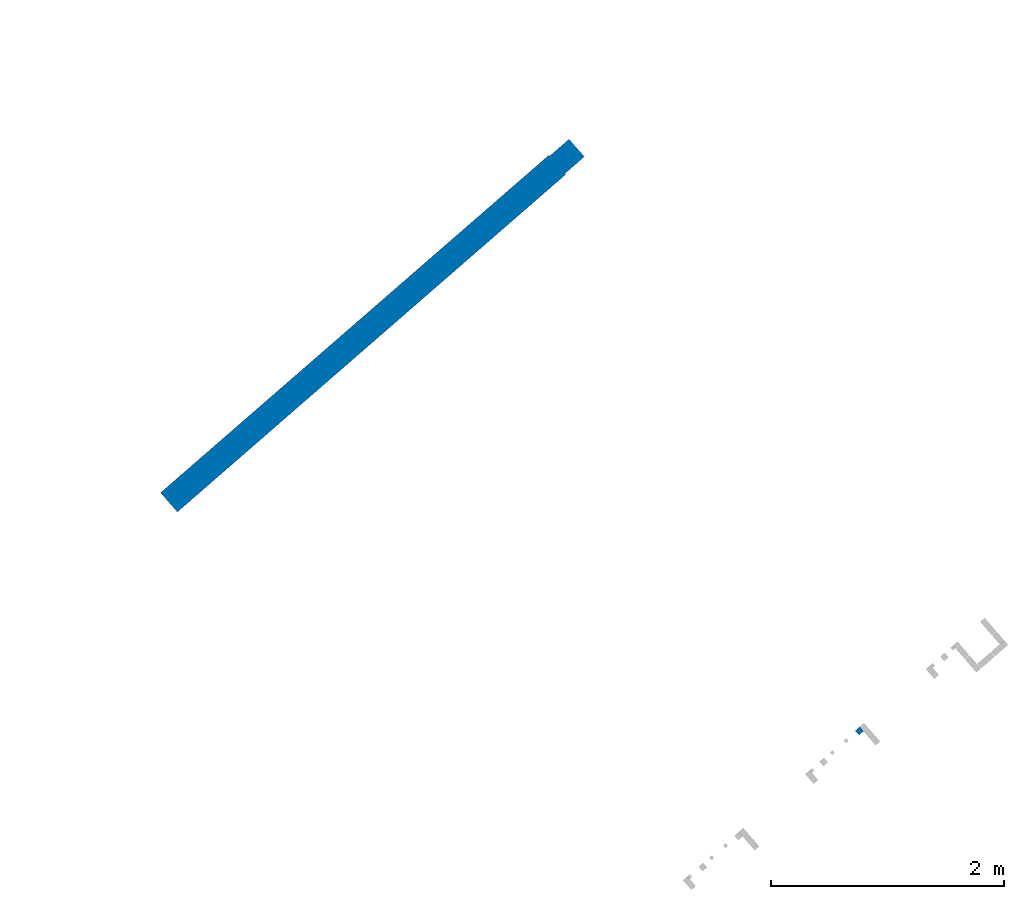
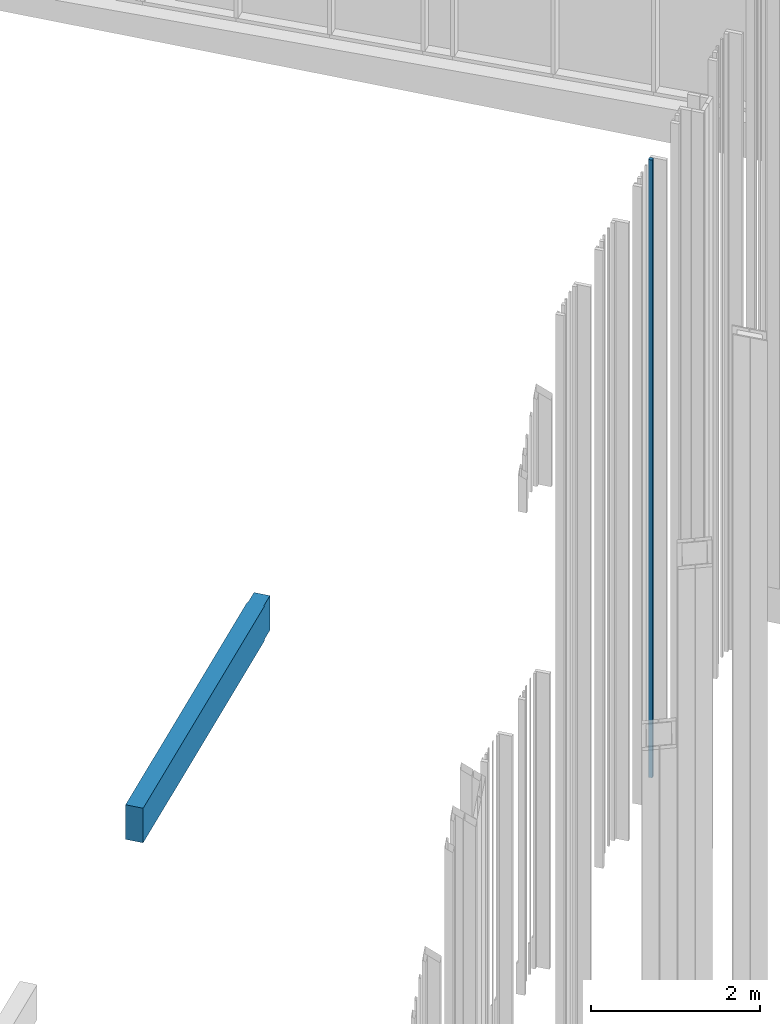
# One storey, part 265 of 390: 2 walls.
"""IFC2X3 building model written with IfcOpenShell, lengths in millimetres."""

from ifc_helpers import new_model, entity, si_unit, converted_unit, derived_unit, money_unit, direction, frame, origin_with_axes, place, context, subcontext, project, spatial, faceted_brep, material, material_list, type_object, element, save


model = new_model("IFC2X3")

# Units and contexts
model_context = context("Model", 3, precision=1e-05, world=origin_with_axes(), true_north=direction((0.0, 1.0)))
body_context = subcontext(model_context, "Body", "Model", "MODEL_VIEW")
ifc_project = project(units=[si_unit("LENGTHUNIT", "METRE", prefix="MILLI"), si_unit("AREAUNIT", "SQUARE_METRE"), si_unit("VOLUMEUNIT", "CUBIC_METRE"), converted_unit("PLANEANGLEUNIT", "DEGREE", entity("IfcPlaneAngleMeasure", 0.0174532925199), si_unit("PLANEANGLEUNIT", "RADIAN"), dimensions=[0, 0, 0, 0, 0, 0, 0]), si_unit("SOLIDANGLEUNIT", "STERADIAN"), money_unit("EUR"), converted_unit("TIMEUNIT", "Year", entity("IfcTimeMeasure", 31556926.0), si_unit("TIMEUNIT", "SECOND"), dimensions=[0, 0, 1, 0, 0, 0, 0]), si_unit("MASSUNIT", "GRAM", prefix="KILO"), si_unit("THERMODYNAMICTEMPERATUREUNIT", "DEGREE_CELSIUS"), si_unit("LUMINOUSINTENSITYUNIT", "LUMEN"), si_unit("ENERGYUNIT", "JOULE", prefix="MEGA"), derived_unit("THERMALCONDUCTANCEUNIT", [(si_unit("POWERUNIT", "WATT"), 1), (si_unit("LENGTHUNIT", "METRE"), -1), (si_unit("THERMODYNAMICTEMPERATUREUNIT", "KELVIN"), -1)]), derived_unit("SPECIFICHEATCAPACITYUNIT", [(si_unit("ENERGYUNIT", "JOULE"), 1), (si_unit("MASSUNIT", "GRAM", prefix="KILO"), -1), (si_unit("THERMODYNAMICTEMPERATUREUNIT", "KELVIN"), -1)]), derived_unit("MASSDENSITYUNIT", [(si_unit("MASSUNIT", "GRAM", prefix="KILO"), 1), (si_unit("VOLUMEUNIT", "CUBIC_METRE"), -1)])], contexts=[model_context])

# Site, building, storey
site_placement = place(None, origin_with_axes())
site = spatial("IfcSite", under=ifc_project, at=site_placement, Name="Site", CompositionType="ELEMENT")
building_placement = place(site_placement, origin_with_axes())
building = spatial("IfcBuilding", under=site, at=building_placement, Name="Building", CompositionType="ELEMENT")
storey_placement = place(building_placement, origin_with_axes())
storey = spatial("IfcBuildingStorey", under=building, at=storey_placement, Name="1 korrus", CompositionType="ELEMENT", Elevation=0.0)

# Walls
ifc_material_1 = material(Name="Krohv - Lubjakivi")
ifc_material_2 = material(Name="Raudbetoon - Konstruktsioon")
ifc_material_list = material_list([ifc_material_1, ifc_material_2, ifc_material_1])
wall_type_1 = type_object("IfcWallType", Name="SS-10", PredefinedType="NOTDEFINED")
wall_1_placement = place(storey_placement, frame((165924.889509, 95839.1409519, 885.0), z_axis=(0.0, 0.0, 1.0), x_axis=(-0.754709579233, -0.656059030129, 0.0)))
element("IfcWall", 1, at=wall_1_placement, inside=storey, type_object=wall_type_1, material=ifc_material_list, Name="SS-10", context=body_context, shape_type="Brep", body=[
    faceted_brep([(4419.9998634, -10.0, 500.0), (4419.9998634, 0.0, 500.0), (-5.81118797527e-06, 0.0, 500.0), (-5.54703660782e-06, -9.99999999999, 500.0), (4419.9998634, -10.0, 0.0), (4419.9998634, 0.0, 0.0), (-5.81118797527e-06, 0.0, 0.0), (-5.54703660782e-06, -9.99999999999, 0.0)], [[[0, 1, 2, 3]], [[0, 4, 5, 1]], [[1, 5, 6, 2]], [[3, 2, 6, 7]], [[4, 0, 3, 7]], [[5, 4, 7, 6]]]),
    faceted_brep([(4419.9998634, -210.0, 500.0), (4419.9998634, -10.0, 500.0), (-220.000005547, -9.99999999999, 500.0), (-220.000000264, -210.0, 500.0), (4419.9998634, -210.0, 0.0), (4419.9998634, -10.0, 0.0), (-220.000005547, -9.99999999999, 0.0), (-220.000000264, -210.0, 0.0)], [[[0, 1, 2, 3]], [[0, 4, 5, 1]], [[1, 5, 6, 2]], [[3, 2, 6, 7]], [[4, 0, 3, 7]], [[5, 4, 7, 6]]]),
    faceted_brep([(4419.9998634, -220.0, 500.0), (4419.9998634, -210.0, 500.0), (-2.64208210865e-07, -210.0, 500.0), (0.0, -220.0, 500.0), (4419.9998634, -220.0, 0.0), (4419.9998634, -210.0, 0.0), (-2.64208210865e-07, -210.0, 0.0), (0.0, -220.0, 0.0)], [[[0, 1, 2, 3]], [[0, 4, 5, 1]], [[1, 5, 6, 2]], [[3, 2, 6, 7]], [[4, 0, 3, 7]], [[5, 4, 7, 6]]]),
])
ifc_material_3 = material(Name="Site specified")
wall_type_2 = type_object("IfcWallType", Name="Puitfassaadi ribistik", PredefinedType="NOTDEFINED")
wall_2_placement = place(storey_placement, frame((168446.515554, 91058.9386584, 935.0), z_axis=(0.0, 0.0, 1.0), x_axis=(-0.754709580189, -0.65605902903, 0.0)))
element("IfcWall", 2, at=wall_2_placement, inside=storey, type_object=wall_type_2, material=ifc_material_3, Name="Site specified", context=body_context, shape_type="Brep", body=[
    faceted_brep([(-25.0, -25.0, 8930.0), (-25.0, -25.0, 0.0), (25.0, -25.0, 0.0), (25.0, -25.0, 8930.0), (-25.0, 25.0, 8930.0), (-25.0, 25.0, 0.0), (25.0, 25.0, 0.0), (25.0, 25.0, 8930.0)], [[[0, 1, 2, 3]], [[4, 5, 1, 0]], [[2, 1, 5, 6]], [[3, 2, 6, 7]], [[4, 0, 3, 7]], [[7, 6, 5, 4]]]),
])

save(model, "model.ifc")
